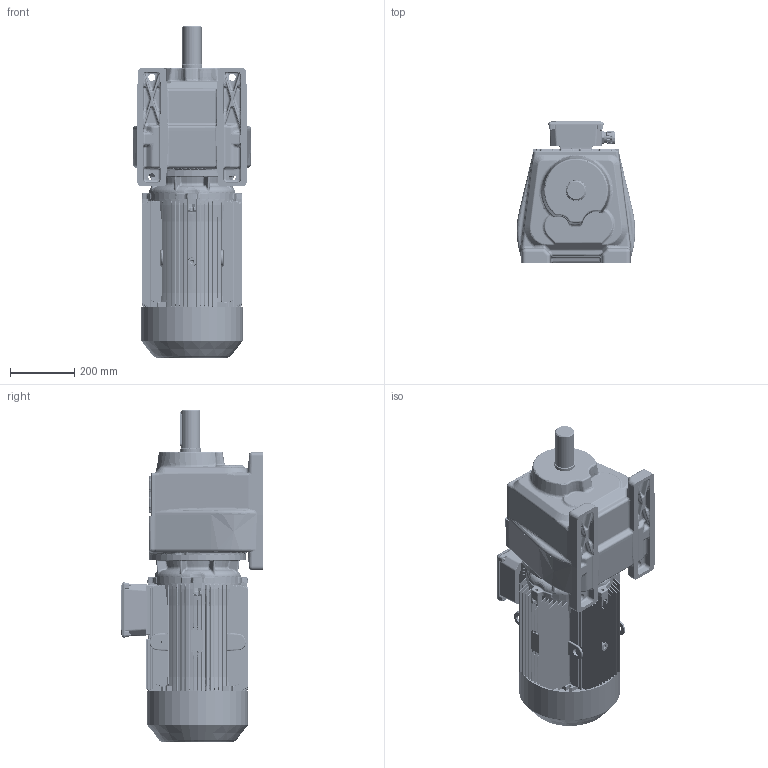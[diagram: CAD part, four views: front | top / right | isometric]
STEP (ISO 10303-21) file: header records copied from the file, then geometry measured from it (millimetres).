
FILE_DESCRIPTION (( 'STEP AP203' ), '1' );
FILE_NAME ('IRAM 93-160 L.step', '2023-12-02T07:53:04', ( '' ), ( '' ), 'SwSTEP 2.0', 'SolidWorks 2022', '' );
FILE_SCHEMA (( 'CONFIG_CONTROL_DESIGN' ));
Products named in the file (5): MBK 160 IE3 GMK İR93, İRK103, YP103, İRC93; IRA 93-; 15kW_160_L_B9 - Standart; Şase_Ø300; IRAM 93-160 L
Assembly tree (4 placements, depth 2):
  IRAM 93-160 L
    Şase_Ø300
    IRA 93-
    MBK 160 IE3 GMK İR93, İRK103, YP103, İRC93
    15kW_160_L_B9 - Standart
Bounding box: 369.56 x 443.55 x 1034 mm (x, y, z)
Volume: 71055906.4 mm3; surface area: 2838393 mm2
Topology: 4 solids, 10 shells, 10342 faces, 28203 edges, 17998 vertices
Faces by surface type: plane 5180, bspline 2489, cylinder 1762, cone 415, torus 315, sphere 181
Entity records: 460838 total; most frequent: CARTESIAN_POINT 222534, ORIENTED_EDGE 55934, DIRECTION 39885, EDGE_CURVE 27967, VERTEX_POINT 17916, LINE 16333, VECTOR 16333, AXIS2_PLACEMENT_3D 11776
